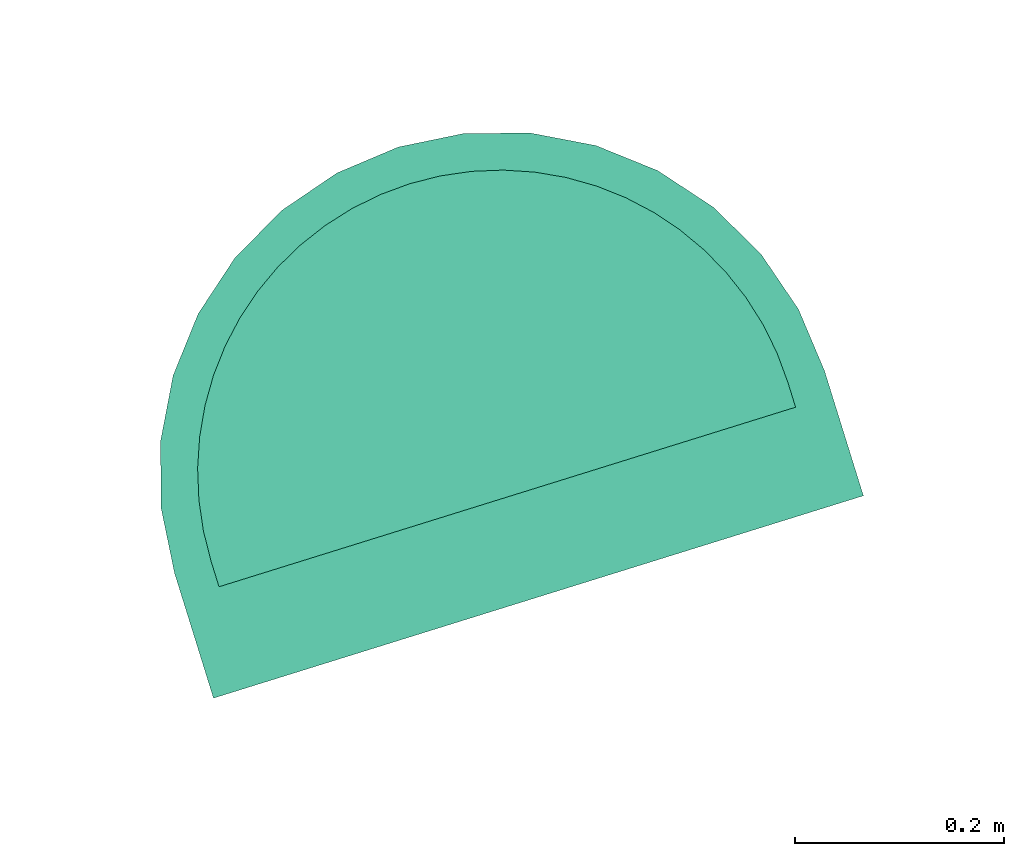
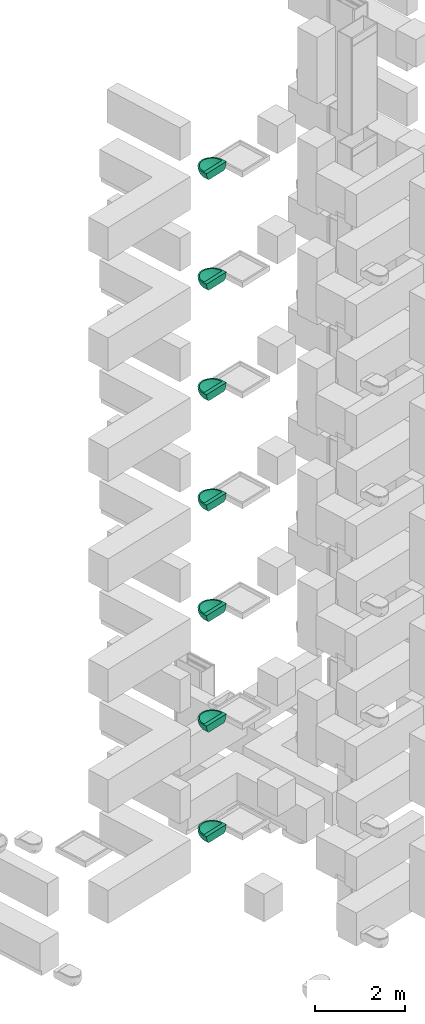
# Not in any storey, part 11 of 17: 7 sanitary terminals.
"""IFC4 model written with IfcOpenShell, lengths in metres."""

from ifc_helpers import new_model, entity, si_unit, converted_unit, direction, frame, origin, place, context, subcontext, project, polygons, source, transform, mapped, material, type_object, type_shapes, element, save


model = new_model("IFC4")

# Units and contexts
model_context = context("Model", 3, precision=1e-05, world=origin(), true_north=direction((6.12323399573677e-17, 1.0)))
body_context = subcontext(model_context, "Body", "Model", "MODEL_VIEW")
ifc_project = project(units=[si_unit("LENGTHUNIT", "METRE"), si_unit("AREAUNIT", "SQUARE_METRE"), converted_unit("PLANEANGLEUNIT", "DEGREE", entity("IfcPlaneAngleMeasure", 0.0174532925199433), si_unit("PLANEANGLEUNIT", "RADIAN"), dimensions=[0, 0, 0, 0, 0, 0, 0]), si_unit("VOLUMEUNIT", "CUBIC_METRE")], contexts=[model_context])

# Sanitary terminals
ifc_material = material(Name="<Unnamed>")
sanitary_terminal_type = type_object("IfcSanitaryTerminalType", Name="NLRS_74_PF_WB_wastafel_gen:wastafel", PredefinedType="SINK", material=ifc_material)
shared_shape = source(origin(), body_context, "Body", "Tessellation", [
    polygons([(0.346918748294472, -0.250000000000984, -6.7), (0.34246627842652, -0.250000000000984, -6.75361232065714), (0.329230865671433, -0.250000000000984, -6.8057556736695), (0.307575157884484, -0.250000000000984, -6.85500134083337), (0.278092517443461, -0.250000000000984, -6.9), (0.278092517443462, -0.124999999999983, -6.9), (0.307569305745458, -0.124999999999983, -6.85501212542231), (0.32922351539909, -0.124999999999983, -6.80577703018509), (0.342460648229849, -0.124999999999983, -6.75364597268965), (0.346918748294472, -0.124999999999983, -6.7), (-0.303081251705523, -0.250000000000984, -6.7), (-0.296836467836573, -0.313404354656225, -6.7), (-0.278342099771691, -0.374372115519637, -6.7), (-0.248308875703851, -0.430560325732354, -6.7), (-0.207890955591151, -0.479809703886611, -6.7), (-0.158641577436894, -0.52022762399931, -6.7), (-0.102453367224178, -0.550260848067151, -6.7), (-0.0414856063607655, -0.568755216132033, -6.7), (0.021918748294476, -0.575000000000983, -6.7), (0.021918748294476, -0.538314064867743, -6.7), (-0.00821701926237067, -0.536734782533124, -6.7), (-0.0380241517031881, -0.532013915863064, -6.7), (-0.0671705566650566, -0.524204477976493, -6.7), (-0.0953421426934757, -0.513391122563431, -6.7), (-0.122231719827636, -0.499691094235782, -6.7), (-0.147543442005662, -0.483254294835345, -6.7), (-0.170998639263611, -0.464261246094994, -6.7), (-0.192339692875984, -0.442920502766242, -6.7), (-0.21133265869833, -0.419466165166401, -6.7), (-0.227769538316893, -0.394155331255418, -6.7), (-0.241470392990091, -0.367265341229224, -6.7), (-0.252285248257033, -0.339090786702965, -6.7), (-0.260095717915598, -0.309940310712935, -6.7), (-0.264816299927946, -0.280133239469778, -6.7), (-0.266395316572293, -0.250000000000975, -6.7), (-0.266395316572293, -0.225000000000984, -6.7), (0.021918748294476, -0.225000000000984, -6.7), (0.021918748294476, -0.124999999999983, -6.7), (-0.303081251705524, -0.124999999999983, -6.7), (0.310232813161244, -0.225000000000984, -6.7), (0.310232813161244, -0.250000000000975, -6.7), (0.308653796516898, -0.280133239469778, -6.7), (0.303933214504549, -0.309940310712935, -6.7), (0.296122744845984, -0.339090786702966, -6.7), (0.285307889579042, -0.367265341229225, -6.7), (0.271607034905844, -0.394155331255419, -6.7), (0.255170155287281, -0.419466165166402, -6.7), (0.236177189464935, -0.442920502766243, -6.7), (0.214836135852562, -0.464261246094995, -6.7), (0.191380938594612, -0.483254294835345, -6.7), (0.166069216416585, -0.499691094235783, -6.7), (0.139179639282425, -0.513391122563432, -6.7), (0.111008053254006, -0.524204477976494, -6.7), (0.0818616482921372, -0.532013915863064, -6.7), (0.0520545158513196, -0.536734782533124, -6.7), (0.0853231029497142, -0.568755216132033, -6.7), (0.146290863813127, -0.550260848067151, -6.7), (0.202479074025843, -0.52022762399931, -6.7), (0.2517284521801, -0.479809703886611, -6.7), (0.292146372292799, -0.430560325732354, -6.7), (0.32217959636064, -0.374372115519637, -6.7), (0.340673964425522, -0.313404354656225, -6.7), (-0.298623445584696, -0.124999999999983, -6.75364421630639), (-0.285382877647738, -0.124999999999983, -6.80578615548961), (-0.26372299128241, -0.124999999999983, -6.85502837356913), (-0.234255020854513, -0.124999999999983, -6.9), (-0.234255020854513, -0.250000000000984, -6.9), (-0.263737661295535, -0.250000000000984, -6.85500134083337), (-0.285393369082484, -0.250000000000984, -6.8057556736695), (-0.298628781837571, -0.250000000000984, -6.75361232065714), (-0.232753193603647, -0.277698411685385, -6.9), (-0.228265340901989, -0.305071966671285, -6.9), (-0.220844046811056, -0.331799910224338, -6.9), (-0.210576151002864, -0.357569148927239, -6.9), (-0.197581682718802, -0.382077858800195, -6.9), (-0.182012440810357, -0.40503893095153, -6.9), (-0.164050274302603, -0.426183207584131, -6.9), (-0.1439051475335, -0.445262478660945, -6.9), (-0.121813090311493, -0.462052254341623, -6.9), (-0.0980340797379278, -0.476354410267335, -6.9), (-0.0728496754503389, -0.487999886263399, -6.9), (-0.0465597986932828, -0.496851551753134, -6.9), (-0.0194777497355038, -0.502806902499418, -6.9), (0.00807674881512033, -0.50579952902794, -6.9), (0.0357845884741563, -0.505798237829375, -6.9), (0.0633306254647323, -0.502804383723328, -6.9), (0.0904016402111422, -0.496850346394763, -6.9), (0.11668363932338, -0.488001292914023, -6.9), (0.141864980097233, -0.476357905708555, -6.9), (0.165644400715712, -0.46205644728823, -6.9), (0.18773840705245, -0.445266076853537, -6.9), (0.207885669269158, -0.426185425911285, -6.9), (0.225849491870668, -0.405039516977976, -6.9), (0.24141970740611, -0.38207698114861, -6.9), (0.254414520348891, -0.357567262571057, -6.9), (0.264682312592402, -0.331797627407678, -6.9), (0.272103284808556, -0.305069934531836, -6.9), (0.27659082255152, -0.277697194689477, -6.9), (-0.257045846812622, -0.372316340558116, -6.81332461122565), (0.300884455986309, -0.372313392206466, -6.81332505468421), (-0.00978342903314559, -0.571877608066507, -6.7), (-0.205655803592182, -0.453737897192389, -6.81102113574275), (0.249493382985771, -0.453737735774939, -6.81102126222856), (0.0536209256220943, -0.571877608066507, -6.7), (0.0219337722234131, -0.556913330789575, -6.80690747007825), (-0.0719694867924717, -0.559508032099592, -6.7), (0.11580698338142, -0.559508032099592, -6.7), (-0.0425022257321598, -0.546258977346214, -6.81707073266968), (-0.165040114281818, -0.491191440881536, -6.81179477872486), (0.20887408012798, -0.49119811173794, -6.81178629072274), (0.0863501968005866, -0.546256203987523, -6.8170719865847), (-0.23446246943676, -0.3802654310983, -6.85140868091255), (0.278301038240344, -0.380263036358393, -6.85140892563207), (-0.120243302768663, -0.518687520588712, -6.81498681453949), (0.164074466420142, -0.518691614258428, -6.81498507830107), (-0.233336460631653, -0.433005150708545, -6.78353976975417), (0.277175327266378, -0.433003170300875, -6.78353992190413), (-0.290060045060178, -0.315925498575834, -6.76283359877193), (0.333897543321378, -0.315925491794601, -6.76283359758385), (-0.275008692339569, -0.312028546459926, -6.81666856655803), (-0.254394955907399, -0.314447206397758, -6.85850014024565), (-0.272362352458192, -0.371908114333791, -6.76451391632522), (0.31884634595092, -0.312026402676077, -6.81666930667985), (0.298232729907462, -0.314444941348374, -6.85850057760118), (0.316201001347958, -0.371905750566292, -6.76451312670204), (-0.0755829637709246, -0.549402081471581, -6.78047862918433), (-0.0690330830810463, -0.524635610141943, -6.84808121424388), (0.119420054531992, -0.549406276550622, -6.7804635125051), (0.112885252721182, -0.524636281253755, -6.84807095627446), (-0.228099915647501, -0.455185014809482, -6.7), (0.27193741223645, -0.455185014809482, -6.7), (-0.183266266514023, -0.50001866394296, -6.7), (0.227103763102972, -0.50001866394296, -6.7), (-0.130547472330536, -0.53524423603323, -6.7), (0.174384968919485, -0.53524423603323, -6.7), (0.278352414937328, -0.250000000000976, -6.74966665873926), (0.238015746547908, -0.250000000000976, -6.79274902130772), (0.190552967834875, -0.250000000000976, -6.82782638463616), (0.137529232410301, -0.250000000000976, -6.85374202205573), (0.0806930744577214, -0.250000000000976, -6.86964132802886), (0.0219187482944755, -0.250000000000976, -6.875), (-0.0368555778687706, -0.250000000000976, -6.86964132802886), (-0.0936917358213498, -0.250000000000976, -6.85374202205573), (-0.146715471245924, -0.250000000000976, -6.82782638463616), (-0.194178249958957, -0.250000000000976, -6.79274902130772), (-0.234514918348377, -0.250000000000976, -6.74966665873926), (-0.119627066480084, -0.397173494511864, -6.80284332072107), (0.16346455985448, -0.397173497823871, -6.8028433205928), (-0.200517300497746, -0.337511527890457, -6.77020203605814), (0.244354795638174, -0.337511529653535, -6.77020203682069), (-0.162633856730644, -0.422041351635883, -6.75485875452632), (0.206471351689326, -0.422041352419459, -6.75485875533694), (0.00220012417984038, -0.442185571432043, -6.81134437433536), (-0.0912046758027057, -0.468814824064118, -6.76200981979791), (0.135042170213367, -0.468814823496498, -6.76200982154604), (0.0498196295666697, -0.355825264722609, -6.85601887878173), (-0.0620730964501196, -0.341760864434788, -6.85025041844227), (0.160889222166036, -0.323929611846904, -6.83433540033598), (0.0405814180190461, -0.492340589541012, -6.76574926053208), (0.0863370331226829, -0.429389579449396, -6.81323879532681), (-0.00909478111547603, -0.495066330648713, -6.76120050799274), (-0.0478694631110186, -0.456606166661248, -6.79097405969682), (-0.0422183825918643, -0.402597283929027, -6.82968821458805), (-0.00740806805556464, -0.361981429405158, -6.8536858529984), (-0.00719351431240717, -0.303117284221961, -6.869305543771), (-0.0504034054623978, -0.497275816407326, -6.7481140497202), (0.115439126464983, -0.373042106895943, -6.83590134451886), (0.101584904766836, -0.312319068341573, -6.85886022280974), (-0.144773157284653, -0.326326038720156, -6.81835264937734), (0.086060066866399, -0.493745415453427, -6.75518056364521), (0.278341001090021, -0.225000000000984, -6.74968131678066), (0.238003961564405, -0.225000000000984, -6.79275951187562), (0.19054233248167, -0.225000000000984, -6.82783283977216), (0.137520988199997, -0.225000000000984, -6.85374515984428), (0.080687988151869, -0.225000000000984, -6.86964226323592), (0.021917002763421, -0.225000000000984, -6.87499999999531), (-0.0368543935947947, -0.225000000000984, -6.869641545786), (-0.0936885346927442, -0.225000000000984, -6.85374324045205), (-0.146711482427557, -0.225000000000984, -6.8278288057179), (-0.19417475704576, -0.225000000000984, -6.79275213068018), (-0.234512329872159, -0.225000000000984, -6.74966998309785)], [[[7, 4, 5]], [[5, 6, 7]], [[4, 7, 8]], [[8, 3, 4]], [[10, 1, 2]], [[3, 9, 2]], [[10, 2, 9]], [[8, 9, 3]], [[19, 104, 56, 107, 57, 135, 58, 133, 59, 131, 60, 61, 62, 1, 10, 38, 39, 11, 12, 13, 14, 130, 15, 132, 16, 134, 17, 106, 18, 101], [20, 21, 22, 23, 24, 25, 26, 27, 28, 29, 30, 31, 32, 33, 34, 35, 36, 37, 40, 41, 42, 43, 44, 45, 46, 47, 48, 49, 50, 51, 52, 53, 54, 55]], [[39, 70, 11]], [[39, 63, 70]], [[69, 70, 63]], [[64, 69, 63]], [[65, 67, 68]], [[64, 65, 68]], [[66, 67, 65]], [[69, 64, 68]], [[9, 8, 7, 6, 66, 65, 64, 63, 39, 38, 10]], [[16, 102, 109]], [[60, 125, 61]], [[124, 123, 100]], [[77, 78, 109]], [[102, 116, 112]], [[109, 76, 77]], [[95, 113, 94]], [[76, 109, 102]], [[114, 109, 78]], [[125, 123, 119]], [[127, 81, 82]], [[105, 101, 108]], [[61, 125, 119]], [[108, 83, 84]], [[109, 114, 17]], [[18, 126, 108]], [[100, 117, 113]], [[114, 127, 126]], [[80, 114, 79]], [[17, 114, 106]], [[18, 106, 126]], [[96, 97, 124]], [[102, 112, 75]], [[118, 13, 12]], [[126, 106, 114]], [[69, 118, 70]], [[120, 99, 122]], [[11, 70, 12]], [[12, 70, 118]], [[131, 59, 117]], [[113, 117, 103]], [[14, 13, 122]], [[108, 127, 82]], [[105, 108, 84]], [[73, 121, 72]], [[112, 73, 74]], [[90, 91, 115]], [[132, 15, 116]], [[121, 68, 67]], [[84, 85, 105]], [[68, 120, 69]], [[120, 68, 121]], [[114, 80, 127]], [[105, 111, 104]], [[73, 112, 121]], [[102, 75, 76]], [[116, 130, 99]], [[67, 71, 121]], [[108, 126, 127]], [[56, 104, 111]], [[124, 5, 4]], [[112, 74, 75]], [[19, 101, 105]], [[19, 105, 104]], [[85, 111, 105]], [[18, 108, 101]], [[86, 87, 111]], [[90, 115, 89]], [[57, 107, 115]], [[103, 58, 110]], [[122, 118, 120]], [[99, 121, 112]], [[103, 110, 93]], [[78, 79, 114]], [[128, 111, 129]], [[100, 131, 117]], [[115, 91, 110]], [[93, 94, 103]], [[86, 111, 85]], [[121, 99, 120]], [[56, 111, 128]], [[118, 122, 13]], [[99, 112, 116]], [[134, 16, 109, 17]], [[110, 91, 92]], [[110, 92, 93]], [[129, 111, 87]], [[117, 133, 103]], [[113, 103, 94]], [[108, 82, 83]], [[123, 124, 4]], [[124, 113, 96]], [[107, 56, 128]], [[124, 100, 113]], [[113, 95, 96]], [[4, 3, 123]], [[124, 98, 5]], [[69, 120, 118]], [[2, 62, 119]], [[129, 88, 89]], [[133, 58, 103]], [[99, 130, 122]], [[62, 2, 1]], [[3, 2, 119]], [[102, 132, 116]], [[125, 100, 123]], [[124, 97, 98]], [[61, 119, 62]], [[135, 57, 110, 58]], [[71, 72, 121]], [[116, 15, 130]], [[131, 100, 125]], [[3, 119, 123]], [[80, 81, 127]], [[128, 115, 107]], [[129, 89, 115]], [[128, 129, 115]], [[88, 129, 87]], [[14, 122, 130]], [[125, 60, 131]], [[132, 102, 16]], [[133, 117, 59]], [[115, 110, 57]], [[151, 26, 25]], [[164, 153, 156]], [[151, 28, 27]], [[156, 168, 165]], [[153, 164, 163]], [[30, 151, 149]], [[25, 24, 154]], [[147, 163, 157]], [[159, 161, 20]], [[170, 160, 159]], [[143, 169, 157]], [[162, 153, 163]], [[162, 166, 161]], [[20, 161, 21]], [[151, 25, 154]], [[153, 162, 161]], [[166, 162, 154]], [[157, 163, 164]], [[32, 149, 33]], [[23, 166, 154]], [[146, 34, 33]], [[156, 160, 167]], [[168, 167, 158]], [[35, 34, 146]], [[149, 32, 31]], [[166, 22, 21]], [[145, 149, 169]], [[144, 169, 143]], [[167, 168, 156]], [[146, 149, 145]], [[33, 149, 146]], [[29, 28, 151]], [[30, 149, 31]], [[138, 150, 137]], [[23, 154, 24]], [[151, 30, 29]], [[156, 165, 164]], [[26, 151, 27]], [[147, 154, 162]], [[157, 165, 142]], [[159, 153, 161]], [[160, 155, 148]], [[155, 51, 152]], [[150, 158, 148]], [[139, 140, 168]], [[53, 52, 155]], [[170, 55, 54]], [[152, 51, 50]], [[152, 49, 48]], [[147, 162, 163]], [[46, 150, 152]], [[153, 159, 160]], [[53, 155, 170]], [[47, 46, 152]], [[148, 167, 160]], [[152, 50, 49]], [[165, 141, 142]], [[150, 46, 45]], [[155, 52, 51]], [[143, 157, 142]], [[158, 150, 138]], [[138, 139, 158]], [[152, 150, 148]], [[169, 149, 147]], [[157, 164, 165]], [[151, 154, 147]], [[150, 136, 137]], [[21, 161, 166]], [[22, 166, 23]], [[150, 43, 136]], [[136, 42, 41]], [[42, 136, 43]], [[159, 20, 55]], [[152, 48, 47]], [[141, 165, 168]], [[44, 43, 150]], [[44, 150, 45]], [[149, 151, 147]], [[167, 148, 158]], [[170, 54, 53]], [[153, 160, 156]], [[155, 152, 148]], [[139, 168, 158]], [[168, 140, 141]], [[157, 169, 147]], [[145, 169, 144]], [[160, 170, 155]], [[55, 170, 159]], [[146, 36, 35]], [[145, 181, 146]], [[179, 144, 143]], [[145, 144, 180]], [[178, 143, 142]], [[181, 36, 146]], [[180, 181, 145]], [[176, 177, 142]], [[178, 179, 143]], [[177, 178, 142]], [[180, 144, 179]], [[142, 141, 176]], [[175, 141, 140]], [[139, 174, 140]], [[172, 138, 137]], [[139, 138, 173]], [[171, 137, 136]], [[175, 140, 174]], [[174, 139, 173]], [[137, 171, 172]], [[172, 173, 138]], [[171, 136, 40]], [[41, 40, 136]], [[141, 175, 176]], [[40, 37, 36, 181, 180, 179, 178, 177, 176, 175, 174, 173, 172, 171]], [[5, 98, 97, 96, 95, 94, 93, 92, 91, 90, 89, 88, 87, 86, 85, 84, 83, 82, 81, 80, 79, 78, 77, 76, 75, 74, 73, 72, 71, 67, 66, 6]]], closed=True),
])
type_shapes(sanitary_terminal_type, [shared_shape])
placement_1 = place(None, frame((13.1347999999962, 11.9886000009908, 0.0), z_axis=(0.0, 0.0, 1.0), x_axis=(0.954770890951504, 0.297342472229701, 0.0)))
placement_2 = place(placement_1, origin())
placement_3 = place(placement_2, frame((0.0, 0.0, 6.9)))
placement_4 = place(placement_3, origin())
sanitary_terminal_1_placement = place(placement_4, frame((63.1469187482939, 22.1999999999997, 7.4), z_axis=(0.0, 0.0, 1.0), x_axis=(-1.0, 0.0, 0.0)))
element("IfcSanitaryTerminal", 1, at=sanitary_terminal_1_placement, type_object=sanitary_terminal_type, material=ifc_material, Name="NLRS_74_PF_WB_wastafel_gen:wastafel", ObjectType="NLRS_74_PF_WB_wastafel_gen:wastafel", PredefinedType="SINK", context=body_context, shape_type="MappedRepresentation", body=[
    mapped(shared_shape, transform((0.0, 0.0, 0.0), scale=1.0)),
])
placement_5 = place(placement_2, frame((0.0, 0.0, 9.9)))
placement_6 = place(placement_5, origin())
sanitary_terminal_2_placement = place(placement_6, frame((63.1469187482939, 22.1999999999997, 7.4), z_axis=(0.0, 0.0, 1.0), x_axis=(-1.0, 0.0, 0.0)))
element("IfcSanitaryTerminal", 2, at=sanitary_terminal_2_placement, type_object=sanitary_terminal_type, material=ifc_material, Name="NLRS_74_PF_WB_wastafel_gen:wastafel", ObjectType="NLRS_74_PF_WB_wastafel_gen:wastafel", PredefinedType="SINK", context=body_context, shape_type="MappedRepresentation", body=[
    mapped(shared_shape, transform((0.0, 0.0, 0.0), scale=1.0)),
])
placement_7 = place(placement_2, frame((0.0, 0.0, 12.9)))
placement_8 = place(placement_7, origin())
sanitary_terminal_3_placement = place(placement_8, frame((63.1469187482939, 22.1999999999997, 7.4), z_axis=(0.0, 0.0, 1.0), x_axis=(-1.0, 0.0, 0.0)))
element("IfcSanitaryTerminal", 3, at=sanitary_terminal_3_placement, type_object=sanitary_terminal_type, material=ifc_material, Name="NLRS_74_PF_WB_wastafel_gen:wastafel", ObjectType="NLRS_74_PF_WB_wastafel_gen:wastafel", PredefinedType="SINK", context=body_context, shape_type="MappedRepresentation", body=[
    mapped(shared_shape, transform((0.0, 0.0, 0.0), scale=1.0)),
])
placement_9 = place(placement_2, frame((0.0, 0.0, 15.9)))
placement_10 = place(placement_9, origin())
sanitary_terminal_4_placement = place(placement_10, frame((63.1469187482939, 22.1999999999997, 7.4), z_axis=(0.0, 0.0, 1.0), x_axis=(-1.0, 0.0, 0.0)))
element("IfcSanitaryTerminal", 4, at=sanitary_terminal_4_placement, type_object=sanitary_terminal_type, material=ifc_material, Name="NLRS_74_PF_WB_wastafel_gen:wastafel", ObjectType="NLRS_74_PF_WB_wastafel_gen:wastafel", PredefinedType="SINK", context=body_context, shape_type="MappedRepresentation", body=[
    mapped(shared_shape, transform((0.0, 0.0, 0.0), scale=1.0)),
])
placement_11 = place(placement_2, frame((0.0, 0.0, 18.9)))
placement_12 = place(placement_11, origin())
sanitary_terminal_5_placement = place(placement_12, frame((63.1469187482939, 22.1999999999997, 7.4), z_axis=(0.0, 0.0, 1.0), x_axis=(-1.0, 0.0, 0.0)))
element("IfcSanitaryTerminal", 5, at=sanitary_terminal_5_placement, type_object=sanitary_terminal_type, material=ifc_material, Name="NLRS_74_PF_WB_wastafel_gen:wastafel", ObjectType="NLRS_74_PF_WB_wastafel_gen:wastafel", PredefinedType="SINK", context=body_context, shape_type="MappedRepresentation", body=[
    mapped(shared_shape, transform((0.0, 0.0, 0.0), scale=1.0)),
])
placement_13 = place(placement_2, frame((0.0, 0.0, 21.9)))
placement_14 = place(placement_13, origin())
sanitary_terminal_6_placement = place(placement_14, frame((63.1469187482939, 22.1999999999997, 7.4), z_axis=(0.0, 0.0, 1.0), x_axis=(-1.0, 0.0, 0.0)))
element("IfcSanitaryTerminal", 6, at=sanitary_terminal_6_placement, type_object=sanitary_terminal_type, material=ifc_material, Name="NLRS_74_PF_WB_wastafel_gen:wastafel", ObjectType="NLRS_74_PF_WB_wastafel_gen:wastafel", PredefinedType="SINK", context=body_context, shape_type="MappedRepresentation", body=[
    mapped(shared_shape, transform((0.0, 0.0, 0.0), scale=1.0)),
])
placement_15 = place(placement_2, frame((0.0, 0.0, 24.9)))
placement_16 = place(placement_15, origin())
sanitary_terminal_7_placement = place(placement_16, frame((63.1469187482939, 22.1999999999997, 7.4), z_axis=(0.0, 0.0, 1.0), x_axis=(-1.0, 0.0, 0.0)))
element("IfcSanitaryTerminal", 7, at=sanitary_terminal_7_placement, type_object=sanitary_terminal_type, material=ifc_material, Name="NLRS_74_PF_WB_wastafel_gen:wastafel", ObjectType="NLRS_74_PF_WB_wastafel_gen:wastafel", PredefinedType="SINK", context=body_context, shape_type="MappedRepresentation", body=[
    mapped(shared_shape, transform((0.0, 0.0, 0.0), scale=1.0)),
])

save(model, "model.ifc")
